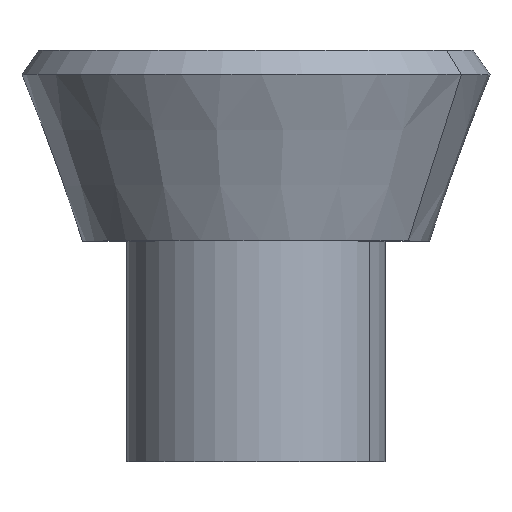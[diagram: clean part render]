
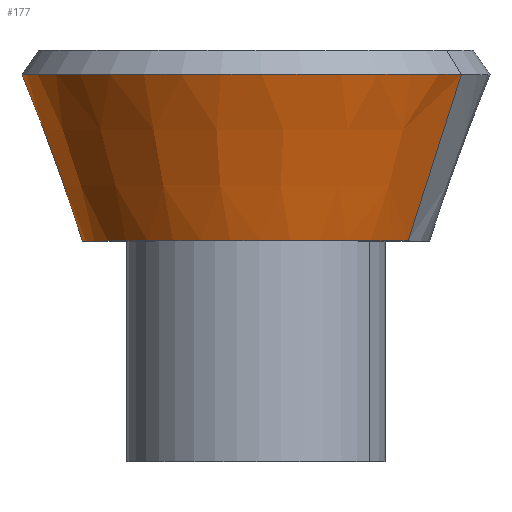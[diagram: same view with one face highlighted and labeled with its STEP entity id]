
A CAD part, top view. The second image highlights one B-rep face of the part: STEP entity #177.
In plain terms, the highlighted conical face has half-angle 20 degrees and reference radius 118 mm.
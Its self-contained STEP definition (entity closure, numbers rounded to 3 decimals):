
#114=CARTESIAN_POINT('Axis2P3D Location',(0.,0.,0.)) ;
#118=CARTESIAN_POINT('Vertex',(103.555,0.,56.572)) ;
#120=CARTESIAN_POINT('Vertex',(-103.555,0.,-56.572)) ;
#147=CARTESIAN_POINT('Axis2P3D Location',(0.,0.,0.)) ;
#152=CARTESIAN_POINT('Line Origine',(121.649,56.647,66.457)) ;
#156=CARTESIAN_POINT('Vertex',(139.743,113.295,76.342)) ;
#159=CARTESIAN_POINT('Axis2P3D Location',(0.,113.295,0.)) ;
#163=CARTESIAN_POINT('Vertex',(-139.743,113.295,-76.342)) ;
#166=CARTESIAN_POINT('Line Origine',(-121.649,56.647,-66.457)) ;
#115=DIRECTION('Axis2P3D Direction',(0.,-1.,0.)) ;
#148=DIRECTION('Axis2P3D Direction',(-0.,1.,-0.)) ;
#149=DIRECTION('Axis2P3D XDirection',(0.878,0.,0.479)) ;
#153=DIRECTION('Vector Direction',(0.3,0.94,0.164)) ;
#160=DIRECTION('Axis2P3D Direction',(0.,1.,-0.)) ;
#167=DIRECTION('Vector Direction',(-0.3,0.94,-0.164)) ;
#116=AXIS2_PLACEMENT_3D('Circle Axis2P3D',#114,#115,$) ;
#150=AXIS2_PLACEMENT_3D('Cone Axis2P3D',#147,#148,#149) ;
#161=AXIS2_PLACEMENT_3D('Circle Axis2P3D',#159,#160,$) ;
#172=ORIENTED_EDGE('',*,*,#122,.F.) ;
#173=ORIENTED_EDGE('',*,*,#158,.T.) ;
#174=ORIENTED_EDGE('',*,*,#165,.T.) ;
#175=ORIENTED_EDGE('',*,*,#170,.F.) ;
#154=VECTOR('Line Direction',#153,1.) ;
#168=VECTOR('Line Direction',#167,1.) ;
#177=ADVANCED_FACE('PartBody',(#176),#151,.T.) ;
#117=CIRCLE('generated circle',#116,118.) ;
#162=CIRCLE('generated circle',#161,159.236) ;
#151=CONICAL_SURFACE('Cone',#150,118.,0.349) ;
#122=EDGE_CURVE('',#119,#121,#117,.T.) ;
#158=EDGE_CURVE('',#119,#157,#155,.T.) ;
#165=EDGE_CURVE('',#157,#164,#162,.F.) ;
#170=EDGE_CURVE('',#121,#164,#169,.T.) ;
#171=EDGE_LOOP('',(#172,#173,#174,#175)) ;
#176=FACE_OUTER_BOUND('',#171,.T.) ;
#155=LINE('Line',#152,#154) ;
#169=LINE('Line',#166,#168) ;
#119=VERTEX_POINT('',#118) ;
#121=VERTEX_POINT('',#120) ;
#157=VERTEX_POINT('',#156) ;
#164=VERTEX_POINT('',#163) ;
